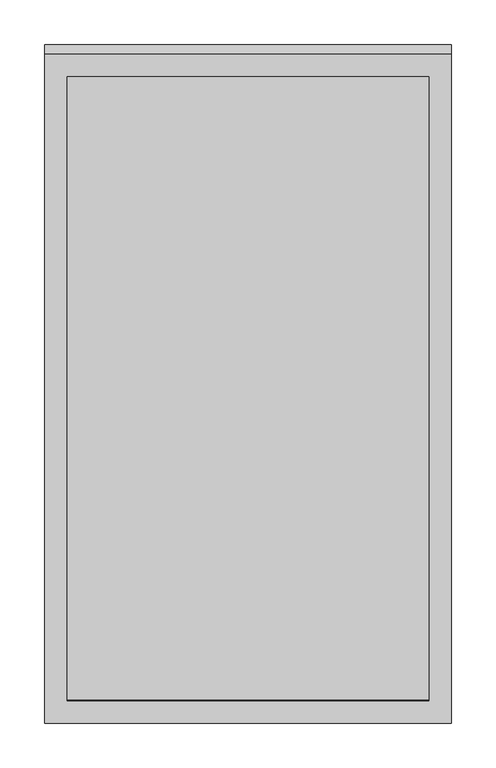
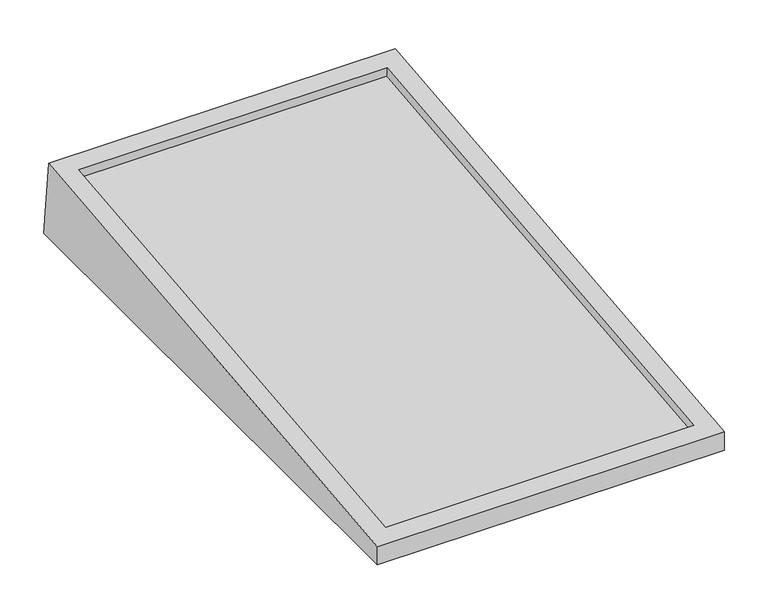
"""IFC4 building model written with IfcOpenShell, lengths in millimetres: proxy geometry, Bradley-Washroom_Accessories-Mirrors-740_Custom : Bradley-Washroom_Accessories-Mirrors-740_Custom."""

from ifc_helpers import new_model, si_unit, origin, place, context, project, spatial, faceted_brep, source, transform, mapped, element, save


def specialty_equipment_9c1522b1(model_context):
    return source(origin(), model_context, "Body", "Brep", [
        faceted_brep([(228.6, -381.0, 0.0), (228.6, 381.0, 0.0), (228.6, 370.0337574, 104.3368287), (228.6, -381.0, 25.4), (-228.6, -381.0, 0.0), (-228.6, -381.0, 25.4), (-228.6, 370.0337574, 104.3368287), (-228.6, 381.0, 0.0), (-203.2, -355.7391439, 28.055023), (-203.2, 344.7729013, 101.6818058), (203.2, 344.7729013, 101.6818058), (203.2, -355.7391439, 28.055023), (-203.2, -354.4116324, 15.4245949), (203.2, -354.4116324, 15.4245949), (203.2, 346.1004127, 89.0513777), (-203.2, 346.1004127, 89.0513777)], [[[0, 1, 2, 3]], [[4, 5, 6, 7]], [[1, 0, 4, 7]], [[2, 1, 7, 6]], [[3, 2, 6, 5], [8, 9, 10, 11]], [[0, 3, 5, 4]], [[12, 13, 14, 15]], [[12, 15, 9, 8]], [[15, 14, 10, 9]], [[14, 13, 11, 10]], [[13, 12, 8, 11]]]),
    ])


if __name__ == "__main__":
    model = new_model("IFC4")
    model_context = context("Model", 3, world=origin())
    ifc_project = project(units=[si_unit("LENGTHUNIT", "METRE", prefix="MILLI")], contexts=[model_context])
    site = spatial("IfcSite", under=ifc_project)
    building = spatial("IfcBuilding", under=site)
    placement = place(None, origin())
    specialty_equipment_shape = specialty_equipment_9c1522b1(model_context)
    element("IfcBuildingElementProxy", 1, Name="Bradley-Washroom_Accessories-Mirrors-740_Custom : Bradley-Washroom_Accessories-Mirrors-740_Custom", ObjectType="Bradley-Washroom_Accessories-Mirrors-740_Custom : Bradley-Washroom_Accessories-Mirrors-740_Custom", at=placement, inside=building, context=model_context, shape_type="MappedRepresentation", body=[
        mapped(specialty_equipment_shape, transform((0.0, 0.0, 0.0), x_axis=(1.0, 0.0, 0.0), y_axis=(0.0, 1.0, 0.0), z_axis=(0.0, 0.0, 1.0))),
    ])
    save(model, "model.ifc")
